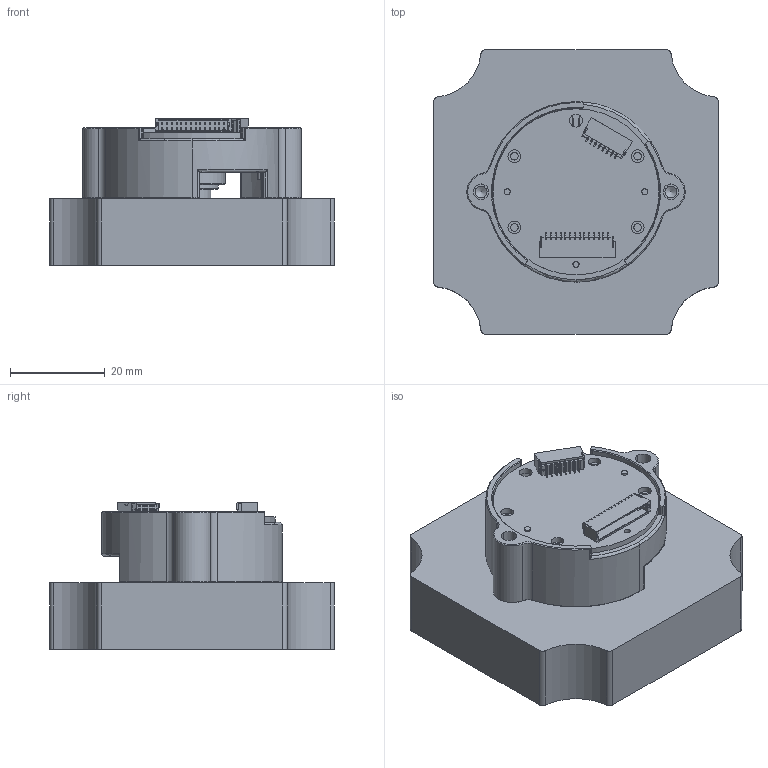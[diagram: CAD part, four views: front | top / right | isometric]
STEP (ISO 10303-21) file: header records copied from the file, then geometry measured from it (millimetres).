
FILE_DESCRIPTION( ('This file contains a STEP AP42 implementation' ,'as created by ZW3D STEP Interface translator.') ,'2;1' );
FILE_NAME( 'MIS46H8.stp' ,'261023.164750', (''), ('ZWCAD Software Co.'), 'Version 1.0', 'ZW3D to STEP translator', '' );
FILE_SCHEMA(('AUTOMOTIVE_DESIGN { 1 0 10303 214 1 1 1 1 }'));
Length unit declared in the file: millimetre
Products named in the file (12): 0; MIS46H; JH-WL-01-010_棠晤60呿蹋盓殤_A01; pcb蚾饜35湮苤傷赽; PCBA啣35綠1.2- 萵掛; 湮傷赽; 苤傷赽; оƬ3x3x1; 耳8棠沺郪璃; 耳8棠詩迖; 棠詩; 60萇儂-4.7mm堤粣-傻
Assembly tree (10 placements, depth 3):
  0
  MIS46H
    JH-WL-01-010_棠晤60呿蹋盓殤_A01
    pcb蚾饜35湮苤傷赽
      PCBA啣35綠1.2- 萵掛
      湮傷赽
      苤傷赽
      оƬ3x3x1
    耳8棠沺郪璃
      耳8棠詩迖
      棠詩
    60萇儂-4.7mm堤粣-傻
Bounding box: 60 x 60 x 30.95 mm (x, y, z)
Volume: 52513 mm3; surface area: 20495.6 mm2
Topology: 9 solids, 9 shells, 2670 faces, 7922 edges, 5146 vertices
Faces by surface type: plane 1519, cylinder 872, cone 159, bspline 108, torus 12
Full cylindrical faces by diameter (mm): 1.3 x3, 2.5 x2, 2.7 x5, 8 x1, 13 x1, 15 x1, 35 x1
Entity records: 100833 total; most frequent: CARTESIAN_POINT 25224, ORIENTED_EDGE 15832, DIRECTION 14628, EDGE_CURVE 7916, VECTOR 5562, LINE 5562, VERTEX_POINT 5138, AXIS2_PLACEMENT_3D 4533
